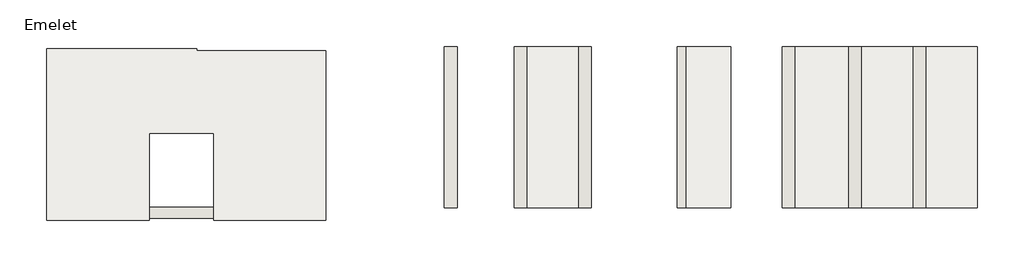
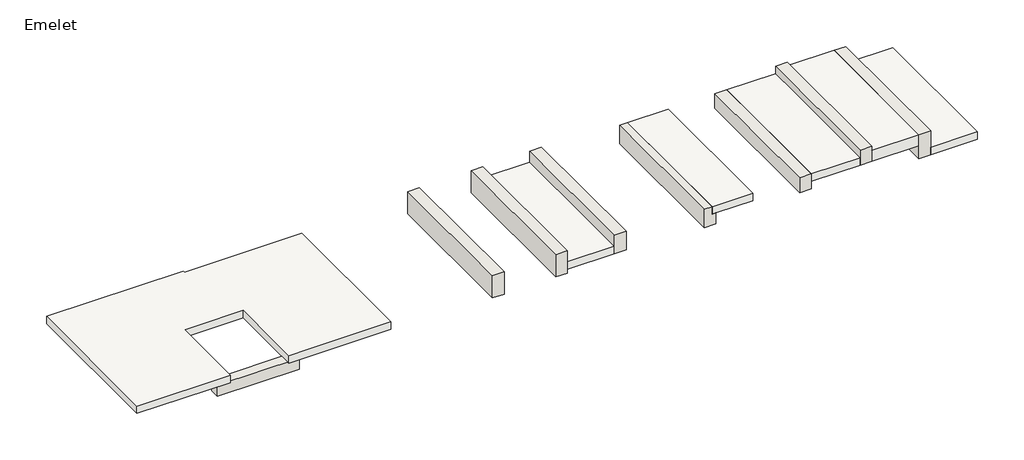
# One storey: 9 walls, 6 slabs.
"""IFC4 building model written with IfcOpenShell, lengths in millimetres."""

from ifc_helpers import new_model, si_unit, frame, origin, place, context, project, spatial, polyline, outline, extrude, faceted_brep, element, save

model = new_model("IFC4")

# Units and contexts
model_context = context("Model", 3, world=origin())
ifc_project = project(units=[si_unit("LENGTHUNIT", "METRE", prefix="MILLI")], contexts=[model_context])

# Site, building, storey
site = spatial("IfcSite", under=ifc_project)
building = spatial("IfcBuilding", under=site)
storey = spatial("IfcBuildingStorey", under=building, Name="Emelet", Elevation=3000.0)

# Slabs
placement = place(None, origin())
element("IfcSlab", 1, ObjectType="Concrete 200 mm", at=placement, inside=storey, context=model_context, shape_type="Brep", body=[
    faceted_brep([(1746.1620032, 2395.0381679, 2700.0), (-642.4936387, 2395.0381679, 2700.0), (-642.4936387, 6395.0381679, 2700.0), (2857.5063613, 6395.0381679, 2700.0), (2857.5063613, 6295.0381679, 2700.0), (5857.5063613, 6295.0381679, 2700.0), (5857.5063613, 2395.0381679, 2700.0), (3246.1620032, 2395.0381679, 2700.0), (3246.1620032, 4418.1629594, 2700.0), (1746.1620032, 4418.1629594, 2700.0), (-642.4936387, 2395.0381679, 2900.0), (1746.1620032, 2395.0381679, 2900.0), (1746.1620032, 4418.1629594, 2900.0), (3246.1620032, 4418.1629594, 2900.0), (3246.1620032, 2395.0381679, 2900.0), (5857.5063613, 2395.0381679, 2900.0), (5857.5063613, 6345.0381679, 2900.0), (2857.5063613, 6345.0381679, 2900.0), (2857.5063613, 6395.0381679, 2900.0), (-642.4936387, 6395.0381679, 2900.0), (2857.5063613, 6395.0381679, 2710.0), (5857.5063613, 6295.0381679, 2710.0), (5857.5063613, 6345.0381679, 2710.0), (2857.5063613, 6345.0381679, 2710.0), (2857.5063613, 6295.0381679, 2710.0)], [[[0, 1, 2, 3, 4, 5, 6, 7, 8, 9]], [[10, 11, 12, 13, 14, 15, 16, 17, 18, 19]], [[1, 0, 11, 10]], [[2, 1, 10, 19]], [[2, 19, 18, 20, 3]], [[15, 6, 5, 21, 22, 16]], [[8, 7, 14, 13]], [[9, 8, 13, 12]], [[0, 9, 12, 11]], [[7, 6, 15, 14]], [[17, 23, 24, 4, 3, 20, 18]], [[23, 17, 16, 22]], [[4, 24, 21, 5]], [[21, 24, 23, 22]]]),
])
element("IfcSlab", 2, ObjectType="Concrete 200 mm", at=placement, inside=storey, context=model_context, shape_type="SweptSolid", body=[
    extrude(outline(polyline([(11741.0965873, 6441.5168566), (11741.0965873, 2691.5168566), (10541.0965873, 2691.5168566), (10541.0965873, 6441.5168566), (11741.0965873, 6441.5168566)])), frame((0.0, 0.0, 2500.0), z_axis=(0.0, 0.0, 1.0), x_axis=(1.0, 0.0, 0.0)), (0.0, 0.0, 1.0), 200.0),
])
element("IfcSlab", 3, ObjectType="Concrete 200 mm", at=placement, inside=storey, context=model_context, shape_type="SweptSolid", body=[
    extrude(outline(polyline([(18028.2841356, 6441.5168566), (18028.2841356, 2691.5168566), (16778.2841356, 2691.5168566), (16778.2841356, 6441.5168566), (18028.2841356, 6441.5168566)])), frame((0.0, 0.0, 2700.0), z_axis=(0.0, 0.0, 1.0), x_axis=(1.0, 0.0, 0.0)), (0.0, 0.0, 1.0), 200.0),
])
element("IfcSlab", 4, ObjectType="Concrete 200 mm", at=placement, inside=storey, context=model_context, shape_type="SweptSolid", body=[
    extrude(outline(polyline([(21028.2841356, 6441.5168566), (21028.2841356, 2691.5168566), (19828.2841356, 2691.5168566), (19828.2841356, 6441.5168566), (21028.2841356, 6441.5168566)])), frame((0.0, 0.0, 2350.0), z_axis=(0.0, 0.0, 1.0), x_axis=(1.0, 0.0, 0.0)), (0.0, 0.0, 1.0), 200.0),
])
element("IfcSlab", 5, ObjectType="Concrete 300 mm", at=placement, inside=storey, context=model_context, shape_type="SweptSolid", body=[
    extrude(outline(polyline([(19528.2841356, 6441.5168566), (19528.2841356, 2691.5168566), (18328.2841356, 2691.5168566), (18328.2841356, 6441.5168566), (19528.2841356, 6441.5168566)])), frame((0.0, 0.0, 2700.0), z_axis=(0.0, 0.0, 1.0), x_axis=(1.0, 0.0, 0.0)), (0.0, 0.0, 1.0), 300.0),
])
element("IfcSlab", 6, ObjectType="Precast 200 mm", at=placement, inside=storey, context=model_context, shape_type="Brep", body=[
    faceted_brep([(15281.0965873, 6441.5168566, 2700.0), (15281.0965873, 2691.5168566, 2700.0), (14341.0965873, 2691.5168566, 2700.0), (14241.0965873, 2691.5168566, 2700.0), (14241.0965873, 6441.5168566, 2700.0), (14341.0965873, 6441.5168566, 2700.0), (15281.0965873, 6441.5168566, 2900.0), (14241.0965873, 6441.5168566, 2900.0), (14241.0965873, 2691.5168566, 2900.0), (15281.0965873, 2691.5168566, 2900.0)], [[[0, 1, 2, 3, 4, 5]], [[6, 7, 8, 9]], [[1, 0, 6, 9]], [[3, 2, 1, 9, 8]], [[4, 3, 8, 7]], [[0, 5, 4, 7, 6]]]),
])

# Walls
element("IfcWall", 7, ObjectType="RC 250", at=placement, inside=storey, context=model_context, shape_type="SweptSolid", body=[
    extrude(outline(polyline([(3546.1620032, 2445.0381679), (1446.1620032, 2445.0381679), (1446.1620032, 2695.0381679), (3546.1620032, 2695.0381679), (3546.1620032, 2445.0381679)])), frame((0.0, 0.0, 2400.0), z_axis=(0.0, 0.0, 1.0), x_axis=(1.0, 0.0, 0.0)), (0.0, 0.0, 1.0), 300.0),
])
element("IfcWall", 8, ObjectType="RC 300mm", at=placement, inside=storey, context=model_context, shape_type="SweptSolid", body=[
    extrude(outline(polyline([(3246.1620032, 4818.1629594), (1446.1620032, 4818.1629594), (1446.1620032, 5118.1629594), (3246.1620032, 5118.1629594), (3246.1620032, 4818.1629594)])), frame((0.0, 0.0, 2400.0), z_axis=(0.0, 0.0, 1.0), x_axis=(1.0, 0.0, 0.0)), (0.0, 0.0, 1.0), 300.0),
])
element("IfcWall", 9, ObjectType="RC 300mm", at=placement, inside=storey, context=model_context, shape_type="SweptSolid", body=[
    extrude(outline(polyline([(8921.0965873, 6441.5168566), (8921.0965873, 2691.5168566), (8621.0965873, 2691.5168566), (8621.0965873, 6441.5168566), (8921.0965873, 6441.5168566)])), frame((0.0, 0.0, 2400.0), z_axis=(0.0, 0.0, 1.0), x_axis=(1.0, 0.0, 0.0)), (0.0, 0.0, 1.0), 600.0),
])
element("IfcWall", 10, ObjectType="RC 300mm", at=placement, inside=storey, context=model_context, shape_type="Brep", body=[
    faceted_brep([(10541.0965873, 2691.5168566, 2400.0), (10541.0965873, 6441.5168566, 2400.0), (10541.0965873, 6441.5168566, 2500.0), (10541.0965873, 6441.5168566, 2700.0), (10541.0965873, 6441.5168566, 3000.0), (10541.0965873, 2691.5168566, 3000.0), (10541.0965873, 2691.5168566, 2700.0), (10541.0965873, 2691.5168566, 2500.0), (10241.0965873, 2691.5168566, 2400.0), (10241.0965873, 2691.5168566, 3000.0), (10241.0965873, 6441.5168566, 3000.0), (10241.0965873, 6441.5168566, 2400.0)], [[[0, 1, 2, 3, 4, 5, 6, 7]], [[8, 9, 10, 11]], [[1, 0, 8, 11]], [[4, 3, 2, 1, 11, 10]], [[5, 4, 10, 9]], [[0, 7, 6, 5, 9, 8]]]),
])
element("IfcWall", 11, ObjectType="RC 300mm", at=placement, inside=storey, context=model_context, shape_type="Brep", body=[
    faceted_brep([(12041.0965873, 2691.5168566, 2500.0), (12041.0965873, 6441.5168566, 2500.0), (12041.0965873, 6441.5168566, 3000.0), (12041.0965873, 2691.5168566, 3000.0), (11741.0965873, 2691.5168566, 2500.0), (11741.0965873, 2691.5168566, 2700.0), (11741.0965873, 2691.5168566, 3000.0), (11741.0965873, 6441.5168566, 3000.0), (11741.0965873, 6441.5168566, 2700.0), (11741.0965873, 6441.5168566, 2500.0)], [[[0, 1, 2, 3]], [[4, 5, 6, 7, 8, 9]], [[1, 0, 4, 9]], [[2, 1, 9, 8, 7]], [[3, 2, 7, 6]], [[0, 3, 6, 5, 4]]]),
])
element("IfcWall", 12, ObjectType="RC 300mm", at=placement, inside=storey, context=model_context, shape_type="SweptSolid", body=[
    extrude(outline(polyline([(2900.0, 14041.0965873), (2400.0, 14041.0965873), (2400.0, 14341.0965873), (2700.0, 14341.0965873), (2700.0, 14241.0965873), (2900.0, 14241.0965873), (2900.0, 14041.0965873)])), frame((0.0, 2691.5168566, 0.0), z_axis=(0.0, 1.0, 0.0), x_axis=(0.0, 0.0, 1.0)), (0.0, 0.0, 1.0), 3750.0),
])
element("IfcWall", 13, ObjectType="RC 300mm", at=placement, inside=storey, context=model_context, shape_type="Brep", body=[
    faceted_brep([(16778.2841356, 2691.5168566, 2500.0), (16778.2841356, 6441.5168566, 2500.0), (16778.2841356, 6441.5168566, 2700.0), (16778.2841356, 6441.5168566, 2900.0), (16778.2841356, 2691.5168566, 2900.0), (16778.2841356, 2691.5168566, 2700.0), (16478.2841356, 2691.5168566, 2500.0), (16478.2841356, 2691.5168566, 2900.0), (16478.2841356, 6441.5168566, 2900.0), (16478.2841356, 6441.5168566, 2500.0)], [[[0, 1, 2, 3, 4, 5]], [[6, 7, 8, 9]], [[1, 0, 6, 9]], [[3, 2, 1, 9, 8]], [[4, 3, 8, 7]], [[0, 5, 4, 7, 6]]]),
])
element("IfcWall", 14, ObjectType="RC 300mm", at=placement, inside=storey, context=model_context, shape_type="Brep", body=[
    faceted_brep([(18328.2841356, 2691.5168566, 2700.0), (18328.2841356, 6441.5168566, 2700.0), (18328.2841356, 6441.5168566, 3000.0), (18328.2841356, 6441.5168566, 3100.0), (18328.2841356, 2691.5168566, 3100.0), (18328.2841356, 2691.5168566, 3000.0), (18028.2841356, 2691.5168566, 2700.0), (18028.2841356, 2691.5168566, 2900.0), (18028.2841356, 2691.5168566, 3100.0), (18028.2841356, 6441.5168566, 3100.0), (18028.2841356, 6441.5168566, 2900.0), (18028.2841356, 6441.5168566, 2700.0)], [[[0, 1, 2, 3, 4, 5]], [[6, 7, 8, 9, 10, 11]], [[1, 0, 6, 11]], [[3, 2, 1, 11, 10, 9]], [[4, 3, 9, 8]], [[0, 5, 4, 8, 7, 6]]]),
])
element("IfcWall", 15, ObjectType="RC 300mm", at=placement, inside=storey, context=model_context, shape_type="Brep", body=[
    faceted_brep([(19828.2841356, 2691.5168566, 2350.0), (19828.2841356, 6441.5168566, 2350.0), (19828.2841356, 6441.5168566, 2550.0), (19828.2841356, 6441.5168566, 3000.0), (19828.2841356, 2691.5168566, 3000.0), (19828.2841356, 2691.5168566, 2550.0), (19528.2841356, 2691.5168566, 2350.0), (19528.2841356, 2691.5168566, 2700.0), (19528.2841356, 2691.5168566, 3000.0), (19528.2841356, 6441.5168566, 3000.0), (19528.2841356, 6441.5168566, 2700.0), (19528.2841356, 6441.5168566, 2350.0)], [[[0, 1, 2, 3, 4, 5]], [[6, 7, 8, 9, 10, 11]], [[1, 0, 6, 11]], [[3, 2, 1, 11, 10, 9]], [[4, 3, 9, 8]], [[0, 5, 4, 8, 7, 6]]]),
])

save(model, "model.ifc")
